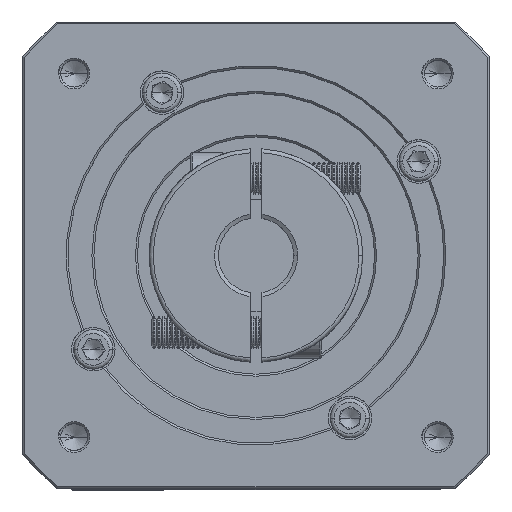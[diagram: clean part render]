
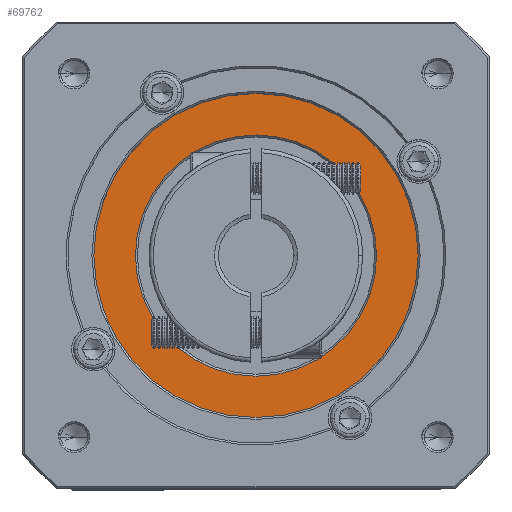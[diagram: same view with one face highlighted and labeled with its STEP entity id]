
A CAD part, top view. The second image highlights one B-rep face of the part: STEP entity #69762.
In plain terms, the highlighted planar face has unit normal (0, 0, 1).
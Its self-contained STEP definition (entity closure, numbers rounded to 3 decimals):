
#3852 = AXIS2_PLACEMENT_3D ( 'NONE', #6013, #14512, #23509 ) ;
#4668 = CIRCLE ( 'NONE', #52241, 30.5 ) ;
#6013 = CARTESIAN_POINT ( 'NONE',  ( 74.129, 105.589, -16.106 ) ) ;
#8918 = ORIENTED_EDGE ( 'NONE', *, *, #104009, .T. ) ;
#10297 = EDGE_LOOP ( 'NONE', ( #54047, #18862 ) ) ;
#14512 = DIRECTION ( 'NONE',  ( 0., 0., 1. ) ) ;
#15008 = CARTESIAN_POINT ( 'NONE',  ( 74.129, 105.589, -16.106 ) ) ;
#16173 = DIRECTION ( 'NONE',  ( 0., -1., 0. ) ) ;
#18862 = ORIENTED_EDGE ( 'NONE', *, *, #37218, .T. ) ;
#22170 = CARTESIAN_POINT ( 'NONE',  ( 74.129, 105.589, -16.106 ) ) ;
#23509 = DIRECTION ( 'NONE',  ( 1., 0., 0. ) ) ;
#25313 = VERTEX_POINT ( 'NONE', #66688 ) ;
#25967 = ORIENTED_EDGE ( 'NONE', *, *, #88994, .T. ) ;
#28468 = FACE_BOUND ( 'NONE', #108616, .T. ) ;
#32523 = CARTESIAN_POINT ( 'NONE',  ( 74.129, 75.089, -16.106 ) ) ;
#37218 = EDGE_CURVE ( 'NONE', #25313, #40338, #107082, .T. ) ;
#37554 = CIRCLE ( 'NONE', #111393, 30.5 ) ;
#40338 = VERTEX_POINT ( 'NONE', #62061 ) ;
#47549 = DIRECTION ( 'NONE',  ( 0., 0., 1. ) ) ;
#52241 = AXIS2_PLACEMENT_3D ( 'NONE', #98503, #72002, #98131 ) ;
#54047 = ORIENTED_EDGE ( 'NONE', *, *, #63687, .T. ) ;
#59807 = PLANE ( 'NONE',  #3852 ) ;
#62061 = CARTESIAN_POINT ( 'NONE',  ( 115.129, 105.589, -16.106 ) ) ;
#63687 = EDGE_CURVE ( 'NONE', #40338, #25313, #70497, .T. ) ;
#66688 = CARTESIAN_POINT ( 'NONE',  ( 33.129, 105.589, -16.106 ) ) ;
#69664 = DIRECTION ( 'NONE',  ( 0., 0., -1. ) ) ;
#69762 = ADVANCED_FACE ( 'NONE', ( #99739, #28468 ), #59807, .T. ) ;
#70497 = CIRCLE ( 'NONE', #111559, 41. ) ;
#71568 = AXIS2_PLACEMENT_3D ( 'NONE', #22170, #84600, #93515 ) ;
#72002 = DIRECTION ( 'NONE',  ( 0., 0., -1. ) ) ;
#77845 = VERTEX_POINT ( 'NONE', #32523 ) ;
#84600 = DIRECTION ( 'NONE',  ( 0., 0., 1. ) ) ;
#88994 = EDGE_CURVE ( 'NONE', #104347, #77845, #4668, .T. ) ;
#93116 = CARTESIAN_POINT ( 'NONE',  ( 74.129, 105.589, -16.106 ) ) ;
#93515 = DIRECTION ( 'NONE',  ( 1., 0., 0. ) ) ;
#98131 = DIRECTION ( 'NONE',  ( 0., -1., 0. ) ) ;
#98503 = CARTESIAN_POINT ( 'NONE',  ( 74.129, 105.589, -16.106 ) ) ;
#99739 = FACE_OUTER_BOUND ( 'NONE', #10297, .T. ) ;
#104009 = EDGE_CURVE ( 'NONE', #77845, #104347, #37554, .T. ) ;
#104347 = VERTEX_POINT ( 'NONE', #108645 ) ;
#107082 = CIRCLE ( 'NONE', #71568, 41. ) ;
#108616 = EDGE_LOOP ( 'NONE', ( #8918, #25967 ) ) ;
#108645 = CARTESIAN_POINT ( 'NONE',  ( 74.129, 136.089, -16.106 ) ) ;
#109988 = DIRECTION ( 'NONE',  ( 1., 0., 0. ) ) ;
#111393 = AXIS2_PLACEMENT_3D ( 'NONE', #15008, #69664, #16173 ) ;
#111559 = AXIS2_PLACEMENT_3D ( 'NONE', #93116, #47549, #109988 ) ;
